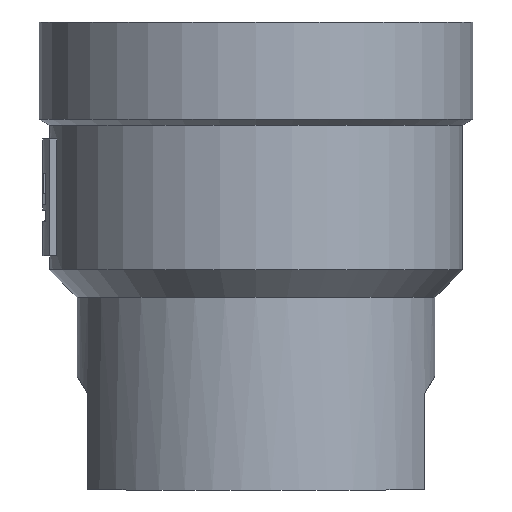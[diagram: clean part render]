
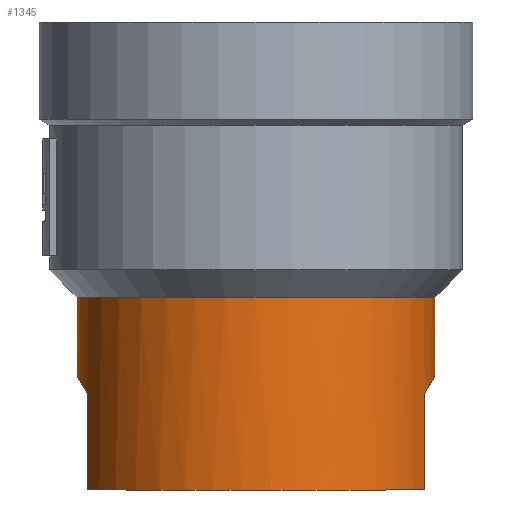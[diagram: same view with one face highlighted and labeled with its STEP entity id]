
A CAD part, front view. The second image highlights one B-rep face of the part: STEP entity #1345.
In plain terms, the highlighted cylindrical face has radius 13 mm (diameter 26 mm), a full revolution.
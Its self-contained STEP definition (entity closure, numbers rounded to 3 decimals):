
#124=CIRCLE('',#1449,13.);
#125=CIRCLE('',#1450,13.);
#126=CIRCLE('',#1451,13.);
#127=CIRCLE('',#1452,13.);
#128=CIRCLE('',#1453,13.);
#185=CYLINDRICAL_SURFACE('',#1448,13.);
#215=ELLIPSE('',#1444,26.,13.);
#216=ELLIPSE('',#1446,26.,13.);
#223=FACE_OUTER_BOUND('',#302,.T.);
#302=EDGE_LOOP('',(#900,#901,#902,#903,#904,#905,#906,#907,#908,#909,#910,
#911,#912));
#387=LINE('',#1905,#460);
#389=LINE('',#1909,#462);
#392=LINE('',#1920,#465);
#394=LINE('',#1923,#467);
#395=LINE('',#1930,#468);
#460=VECTOR('',#1574,10.);
#462=VECTOR('',#1576,10.);
#465=VECTOR('',#1589,10.);
#467=VECTOR('',#1591,10.);
#468=VECTOR('',#1598,13.);
#533=VERTEX_POINT('',#1903);
#534=VERTEX_POINT('',#1904);
#535=VERTEX_POINT('',#1906);
#536=VERTEX_POINT('',#1908);
#537=VERTEX_POINT('',#1914);
#538=VERTEX_POINT('',#1915);
#539=VERTEX_POINT('',#1919);
#540=VERTEX_POINT('',#1921);
#541=VERTEX_POINT('',#1925);
#542=VERTEX_POINT('',#1926);
#543=VERTEX_POINT('',#1929);
#676=EDGE_CURVE('',#533,#534,#387,.T.);
#678=EDGE_CURVE('',#536,#535,#389,.T.);
#680=EDGE_CURVE('',#534,#536,#215,.T.);
#681=EDGE_CURVE('',#537,#538,#216,.T.);
#683=EDGE_CURVE('',#539,#537,#392,.T.);
#685=EDGE_CURVE('',#538,#540,#394,.T.);
#686=EDGE_CURVE('',#541,#542,#124,.T.);
#687=EDGE_CURVE('',#542,#541,#125,.T.);
#688=EDGE_CURVE('',#542,#543,#395,.T.);
#689=EDGE_CURVE('',#543,#539,#126,.T.);
#690=EDGE_CURVE('',#540,#533,#127,.T.);
#691=EDGE_CURVE('',#535,#543,#128,.T.);
#900=ORIENTED_EDGE('',*,*,#686,.F.);
#901=ORIENTED_EDGE('',*,*,#687,.F.);
#902=ORIENTED_EDGE('',*,*,#688,.T.);
#903=ORIENTED_EDGE('',*,*,#689,.T.);
#904=ORIENTED_EDGE('',*,*,#683,.T.);
#905=ORIENTED_EDGE('',*,*,#681,.T.);
#906=ORIENTED_EDGE('',*,*,#685,.T.);
#907=ORIENTED_EDGE('',*,*,#690,.T.);
#908=ORIENTED_EDGE('',*,*,#676,.T.);
#909=ORIENTED_EDGE('',*,*,#680,.T.);
#910=ORIENTED_EDGE('',*,*,#678,.T.);
#911=ORIENTED_EDGE('',*,*,#691,.T.);
#912=ORIENTED_EDGE('',*,*,#688,.F.);
#1345=ADVANCED_FACE('',(#223),#185,.T.);
#1444=AXIS2_PLACEMENT_3D('',#1912,#1580,#1581);
#1446=AXIS2_PLACEMENT_3D('',#1916,#1584,#1585);
#1448=AXIS2_PLACEMENT_3D('',#1924,#1592,#1593);
#1449=AXIS2_PLACEMENT_3D('',#1927,#1594,#1595);
#1450=AXIS2_PLACEMENT_3D('',#1928,#1596,#1597);
#1451=AXIS2_PLACEMENT_3D('',#1931,#1599,#1600);
#1452=AXIS2_PLACEMENT_3D('',#1932,#1601,#1602);
#1453=AXIS2_PLACEMENT_3D('',#1933,#1603,#1604);
#1574=DIRECTION('',(0.,0.,1.));
#1576=DIRECTION('',(0.,0.,-1.));
#1580=DIRECTION('center_axis',(-0.866,0.,0.5));
#1581=DIRECTION('ref_axis',(0.5,0.,0.866));
#1584=DIRECTION('center_axis',(0.866,0.,0.5));
#1585=DIRECTION('ref_axis',(0.5,0.,-0.866));
#1589=DIRECTION('',(0.,0.,1.));
#1591=DIRECTION('',(0.,0.,-1.));
#1592=DIRECTION('center_axis',(0.,0.,1.));
#1593=DIRECTION('ref_axis',(0.,-1.,0.));
#1594=DIRECTION('center_axis',(0.,0.,1.));
#1595=DIRECTION('ref_axis',(1.,0.,0.));
#1596=DIRECTION('center_axis',(0.,0.,1.));
#1597=DIRECTION('ref_axis',(1.,0.,0.));
#1598=DIRECTION('',(0.,0.,-1.));
#1599=DIRECTION('center_axis',(0.,0.,1.));
#1600=DIRECTION('ref_axis',(1.,0.,0.));
#1601=DIRECTION('center_axis',(0.,0.,1.));
#1602=DIRECTION('ref_axis',(1.,0.,0.));
#1603=DIRECTION('center_axis',(0.,0.,1.));
#1604=DIRECTION('ref_axis',(1.,0.,0.));
#1903=CARTESIAN_POINT('',(12.25,-4.248,-1.144));
#1904=CARTESIAN_POINT('',(12.25,-4.248,5.856));
#1905=CARTESIAN_POINT('',(12.25,-4.248,5.856));
#1906=CARTESIAN_POINT('',(12.25,4.456,-1.144));
#1908=CARTESIAN_POINT('',(12.25,4.456,5.856));
#1909=CARTESIAN_POINT('',(12.25,4.456,5.856));
#1912=CARTESIAN_POINT('Origin',(0.,0.104,-15.361));
#1914=CARTESIAN_POINT('',(-12.25,4.456,5.856));
#1915=CARTESIAN_POINT('',(-12.25,-4.248,5.856));
#1916=CARTESIAN_POINT('Origin',(0.,0.104,-15.361));
#1919=CARTESIAN_POINT('',(-12.25,4.456,-1.144));
#1920=CARTESIAN_POINT('',(-12.25,4.456,5.856));
#1921=CARTESIAN_POINT('',(-12.25,-4.248,-1.144));
#1923=CARTESIAN_POINT('',(-12.25,-4.248,5.856));
#1924=CARTESIAN_POINT('Origin',(0.,0.104,5.856));
#1925=CARTESIAN_POINT('',(0.,-12.896,12.856));
#1926=CARTESIAN_POINT('',(0.,13.104,12.856));
#1927=CARTESIAN_POINT('Origin',(0.,0.104,12.856));
#1928=CARTESIAN_POINT('Origin',(0.,0.104,12.856));
#1929=CARTESIAN_POINT('',(0.,13.104,-1.144));
#1930=CARTESIAN_POINT('',(0.,13.104,5.856));
#1931=CARTESIAN_POINT('Origin',(0.,0.104,-1.144));
#1932=CARTESIAN_POINT('Origin',(0.,0.104,-1.144));
#1933=CARTESIAN_POINT('Origin',(0.,0.104,-1.144));
